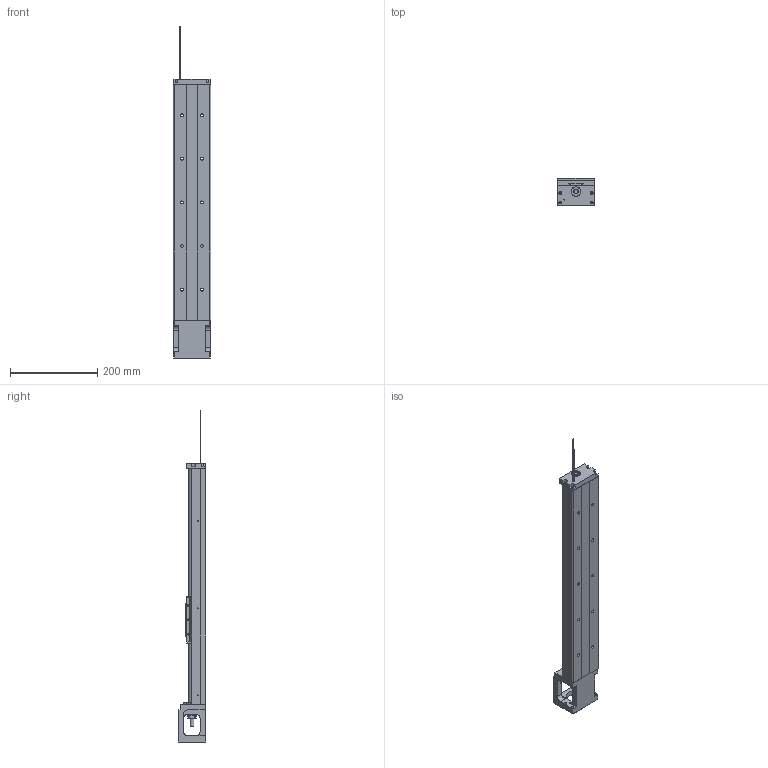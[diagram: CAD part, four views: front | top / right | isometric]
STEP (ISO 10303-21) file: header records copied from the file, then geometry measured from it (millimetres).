
FILE_DESCRIPTION(/* description */ (''),/* implementation_level */ '2;1');
FILE_NAME(/* name */ '46L-540low.stp',/* time_stamp */ '2018-02-12T11:33:41+08:00',/* author */ (''),/* organization */ (''),/* preprocessor_version */ 'ST-DEVELOPER v11',/* originating_system */ 'SIEMENS UGS NX 6.0',/* authorisation */ '');
FILE_SCHEMA (('AUTOMOTIVE_DESIGN { 1 0 10303 214 1 1 1 1 }'));
Length unit declared in the file: millimetre
Products named in the file (1): 3.069
Bounding box: 86 x 64 x 761.89 mm (x, y, z)
Volume: 1344312.3 mm3; surface area: 284709.7 mm2
Topology: 5 solids, 13 shells, 618 faces, 1631 edges, 1069 vertices
Faces by surface type: plane 283, cylinder 223, cone 57, bspline 47, torus 8
Full cylindrical faces by diameter (mm): 2.11 x4, 2.15 x6, 2.42 x8, 3 x6, 3.2 x4, 3.3 x6, 3.4 x8, 4.2 x4, 4.5 x8, 5 x10, 6 x8, 6.35 x2, 6.6 x10, 8 x1, 9.6 x1, 10 x3, 11 x10, 12 x1, 14.95 x2, 15 x1, 16 x2, 22 x3, 27.5 x1, 44 x1, 50 x1
Entity records: 30954 total; most frequent: CARTESIAN_POINT 12582, ORIENTED_EDGE 2806, DIRECTION 2702, EDGE_CURVE 1403, VERTEX_POINT 1001, AXIS2_PLACEMENT_3D 997, EDGE_LOOP 866, LINE 708
